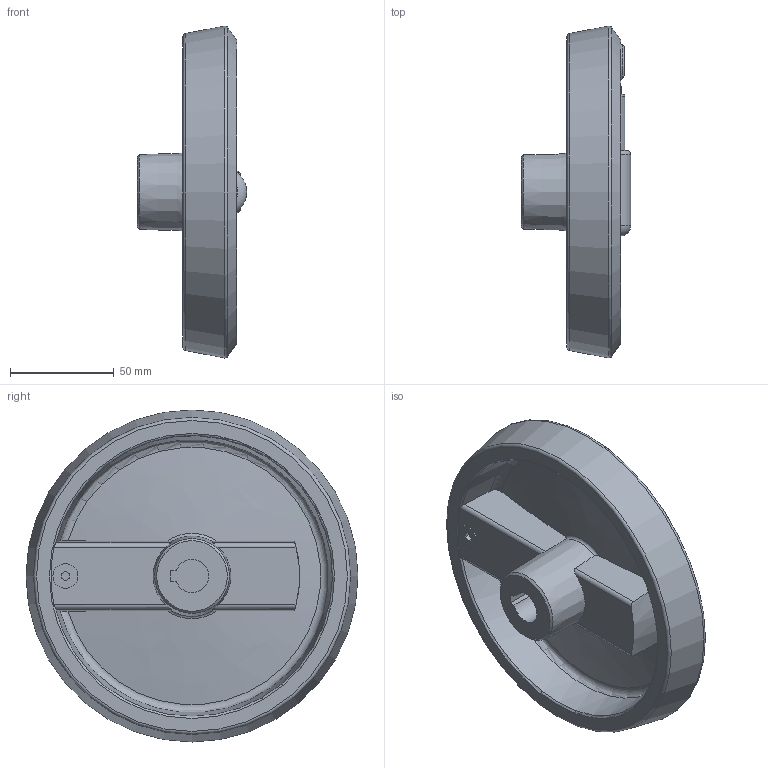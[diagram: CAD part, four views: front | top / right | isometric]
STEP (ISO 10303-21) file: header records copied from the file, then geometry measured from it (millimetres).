
FILE_DESCRIPTION( ( 'STEP AP203' ), '1' );
FILE_NAME( 'C:/Temp/Ganter_Step_05_03_2020/data/1_3/gn_923_7/gn_923_7_k/Handwheel with retractable handle GN 923.7-160-K16-R-SW (unactivated).stp', '2020-03-05T10:40:33', ( 'License CC BY-ND 4.0' ), ( 'CADENAS' ), ' ', 'PARTsolutions', ' ' );
FILE_SCHEMA( ( 'CONFIG_CONTROL_DESIGN' ) );
Length unit declared in the file: millimetre
Products named in the file (3): Handwheel with retractable handle GN 923.7-160-K16-R-SW (unactivated); _Umleggriff-Handrad GN 923.7-160-K16-R-SW-1; _Umleggriff-Handrad GN 923.7-160-K16-R-SW (0)-2
Assembly tree (2 placements, depth 2):
  Handwheel with retractable handle GN 923.7-160-K16-R-SW (unactivated)
    _Umleggriff-Handrad GN 923.7-160-K16-R-SW-1
    _Umleggriff-Handrad GN 923.7-160-K16-R-SW (0)-2
Bounding box: 52.7 x 160 x 160 mm (x, y, z)
Volume: 262037 mm3; surface area: 78275.1 mm2
Topology: 2 solids, 2 shells, 111 faces, 268 edges, 169 vertices
Faces by surface type: plane 48, cylinder 29, torus 14, cone 12, bspline 6, sphere 2
Full cylindrical faces by diameter (mm): 4 x2, 5 x1, 8 x1, 12 x1, 15 x1, 18.5 x1, 20 x1, 23 x2, 24 x1
Entity records: 3625 total; most frequent: CARTESIAN_POINT 1100, DIRECTION 505, ORIENTED_EDGE 470, EDGE_CURVE 235, AXIS2_PLACEMENT_3D 212, VERTEX_POINT 163, EDGE_LOOP 147, FACE_OUTER_BOUND 129
